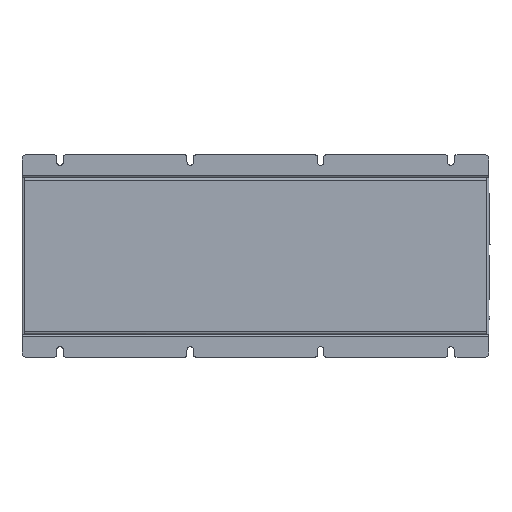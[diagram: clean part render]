
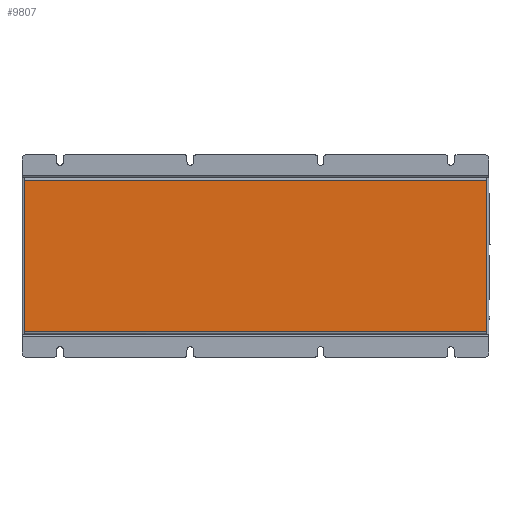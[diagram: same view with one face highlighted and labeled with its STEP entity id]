
A CAD part, front view. The second image highlights one B-rep face of the part: STEP entity #9807.
In plain terms, the highlighted planar face has unit normal (0, -1, 0).
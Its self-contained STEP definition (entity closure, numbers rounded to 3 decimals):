
#955 = CARTESIAN_POINT ( 'NONE',  ( 7.686, -1.998, 2.526 ) ) ;
#2112 = LINE ( 'NONE', #62453, #44344 ) ;
#9436 = ORIENTED_EDGE ( 'NONE', *, *, #39897, .F. ) ;
#9807 = ADVANCED_FACE ( 'NONE', ( #51422 ), #24175, .T. ) ;
#10980 = CARTESIAN_POINT ( 'NONE',  ( -7.686, -1.998, 2.526 ) ) ;
#12925 = VERTEX_POINT ( 'NONE', #35982 ) ;
#14853 = CARTESIAN_POINT ( 'NONE',  ( 7.686, -1.998, 2.526 ) ) ;
#15783 = DIRECTION ( 'NONE',  ( -1., 0., 0. ) ) ;
#20475 = VERTEX_POINT ( 'NONE', #39723 ) ;
#23507 = CARTESIAN_POINT ( 'NONE',  ( -7.686, -1.998, -2.526 ) ) ;
#24175 = PLANE ( 'NONE',  #47401 ) ;
#26605 = VECTOR ( 'NONE', #15783, 39.37 ) ;
#28196 = DIRECTION ( 'NONE',  ( 1., 0., 0. ) ) ;
#33361 = DIRECTION ( 'NONE',  ( 0., 0., 1. ) ) ;
#35833 = EDGE_CURVE ( 'NONE', #12925, #20475, #45425, .T. ) ;
#35982 = CARTESIAN_POINT ( 'NONE',  ( -7.686, -1.998, -2.526 ) ) ;
#38598 = ORIENTED_EDGE ( 'NONE', *, *, #59222, .T. ) ;
#39723 = CARTESIAN_POINT ( 'NONE',  ( 7.686, -1.998, -2.526 ) ) ;
#39897 = EDGE_CURVE ( 'NONE', #44679, #20475, #53194, .T. ) ;
#42779 = DIRECTION ( 'NONE',  ( 0., 0., -1. ) ) ;
#43160 = DIRECTION ( 'NONE',  ( 0., 0., -1. ) ) ;
#43207 = CARTESIAN_POINT ( 'NONE',  ( 7.76, -1.998, 2.6 ) ) ;
#43853 = DIRECTION ( 'NONE',  ( 0., -1., 0. ) ) ;
#44344 = VECTOR ( 'NONE', #42779, 39.37 ) ;
#44679 = VERTEX_POINT ( 'NONE', #14853 ) ;
#45244 = VERTEX_POINT ( 'NONE', #10980 ) ;
#45425 = LINE ( 'NONE', #23507, #59206 ) ;
#47401 = AXIS2_PLACEMENT_3D ( 'NONE', #43207, #43853, #33361 ) ;
#47416 = ORIENTED_EDGE ( 'NONE', *, *, #35833, .T. ) ;
#47454 = CARTESIAN_POINT ( 'NONE',  ( 7.686, -1.998, 2.6 ) ) ;
#51052 = EDGE_LOOP ( 'NONE', ( #38598, #47416, #9436, #62082 ) ) ;
#51422 = FACE_OUTER_BOUND ( 'NONE', #51052, .T. ) ;
#52641 = LINE ( 'NONE', #955, #26605 ) ;
#53194 = LINE ( 'NONE', #47454, #54722 ) ;
#54722 = VECTOR ( 'NONE', #43160, 39.37 ) ;
#59206 = VECTOR ( 'NONE', #28196, 39.37 ) ;
#59222 = EDGE_CURVE ( 'NONE', #45244, #12925, #2112, .T. ) ;
#61619 = EDGE_CURVE ( 'NONE', #44679, #45244, #52641, .T. ) ;
#62082 = ORIENTED_EDGE ( 'NONE', *, *, #61619, .T. ) ;
#62453 = CARTESIAN_POINT ( 'NONE',  ( -7.686, -1.998, 2.6 ) ) ;
